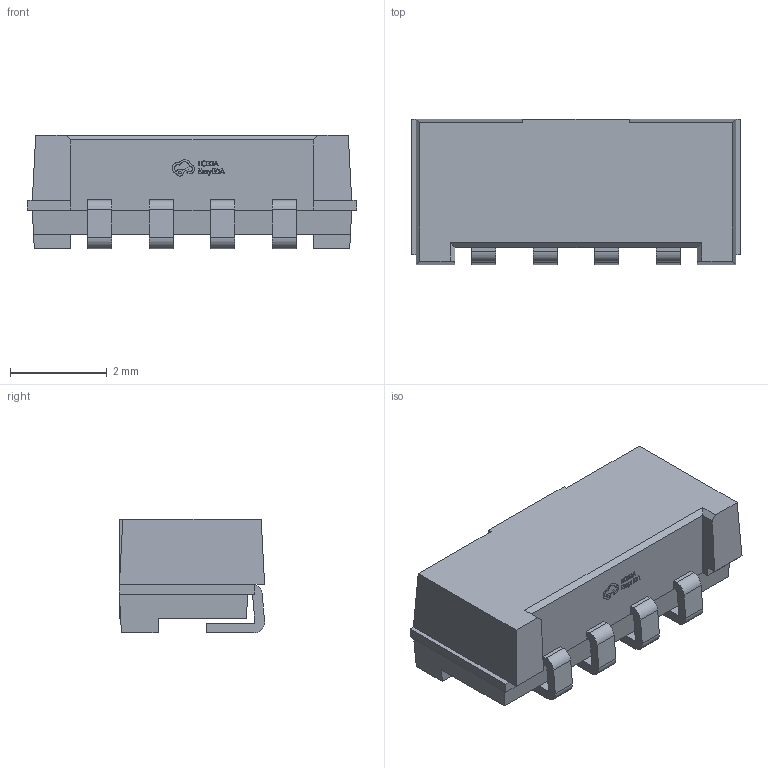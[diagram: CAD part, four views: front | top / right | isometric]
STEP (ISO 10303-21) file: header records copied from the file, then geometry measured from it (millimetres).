
FILE_DESCRIPTION (( 'STEP AP214' ), '1' );
FILE_NAME ('SENSOR-SMD_EML7700-TT.step', '2022-07-12T14:30:39', ( '' ), ( '' ), 'SwSTEP 2.0', 'SolidWorks 2020', '' );
FILE_SCHEMA (( 'AUTOMOTIVE_DESIGN' ));
Length unit declared in the file: millimetre
Products named in the file (1): SENSOR-SMD_EML7700-TT
Bounding box: 6.8 x 3 x 2.35 mm (x, y, z)
Volume: 37.2 mm3; surface area: 89.4 mm2
Topology: 1 solids, 1 shells, 375 faces, 1019 edges, 676 vertices
Faces by surface type: plane 247, bspline 112, cylinder 16
Entity records: 16385 total; most frequent: CARTESIAN_POINT 4175, ORIENTED_EDGE 2038, DIRECTION 1351, EDGE_CURVE 1019, VECTOR 759, LINE 759, VERTEX_POINT 676, EDGE_LOOP 405
